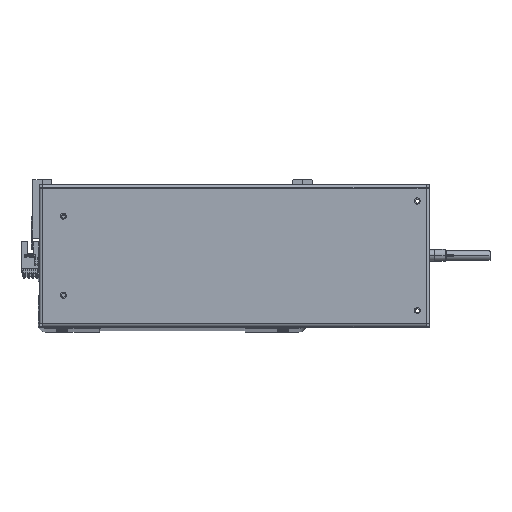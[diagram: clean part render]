
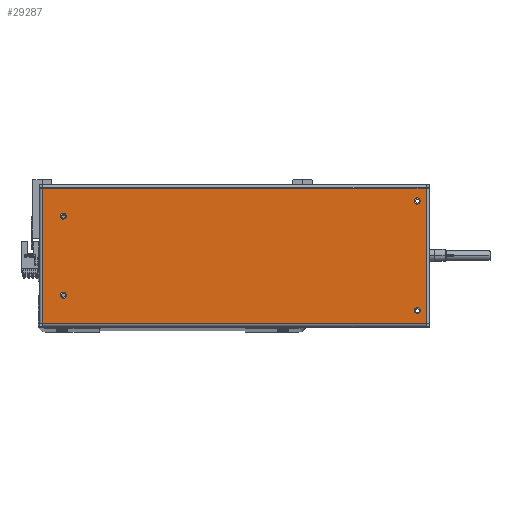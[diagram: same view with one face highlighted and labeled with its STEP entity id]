
A CAD part, top view. The second image highlights one B-rep face of the part: STEP entity #29287.
In plain terms, the highlighted planar face has unit normal (0, 0, 1).
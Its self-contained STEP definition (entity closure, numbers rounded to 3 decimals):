
#29 = VERTEX_POINT ( 'NONE', #30777 ) ;
#833 = CIRCLE ( 'NONE', #13440, 2.5 ) ;
#927 = EDGE_CURVE ( 'NONE', #29, #7868, #24896, .T. ) ;
#1011 = DIRECTION ( 'NONE',  ( 0., 0., 1. ) ) ;
#1405 = EDGE_CURVE ( 'NONE', #23130, #19982, #12248, .T. ) ;
#1716 = VECTOR ( 'NONE', #28894, 1000. ) ;
#1764 = CARTESIAN_POINT ( 'NONE',  ( 153., -45., 0. ) ) ;
#1971 = CARTESIAN_POINT ( 'NONE',  ( 150.5, 45., 0. ) ) ;
#2161 = LINE ( 'NONE', #19128, #1716 ) ;
#2240 = DIRECTION ( 'NONE',  ( 1., 0., 0. ) ) ;
#2986 = CARTESIAN_POINT ( 'NONE',  ( -157.6, 55.6, 0. ) ) ;
#3028 = CIRCLE ( 'NONE', #21426, 2.5 ) ;
#3283 = CARTESIAN_POINT ( 'NONE',  ( -140.5, -32.5, 0. ) ) ;
#3289 = DIRECTION ( 'NONE',  ( 1., 0., 0. ) ) ;
#3943 = CARTESIAN_POINT ( 'NONE',  ( 148., 45., 0. ) ) ;
#4337 = EDGE_LOOP ( 'NONE', ( #41410, #6132 ) ) ;
#4684 = DIRECTION ( 'NONE',  ( 0., 0., -1. ) ) ;
#4745 = ORIENTED_EDGE ( 'NONE', *, *, #23577, .F. ) ;
#5396 = DIRECTION ( 'NONE',  ( 1., 0., 0. ) ) ;
#6132 = ORIENTED_EDGE ( 'NONE', *, *, #34473, .F. ) ;
#6410 = CARTESIAN_POINT ( 'NONE',  ( 157.6, -55.6, 0. ) ) ;
#6520 = LINE ( 'NONE', #35595, #40639 ) ;
#6764 = FACE_BOUND ( 'NONE', #15195, .T. ) ;
#6909 = ORIENTED_EDGE ( 'NONE', *, *, #35395, .T. ) ;
#7868 = VERTEX_POINT ( 'NONE', #2986 ) ;
#7960 = VERTEX_POINT ( 'NONE', #36609 ) ;
#8451 = EDGE_CURVE ( 'NONE', #37387, #40763, #11233, .T. ) ;
#8505 = EDGE_CURVE ( 'NONE', #14424, #27484, #34440, .T. ) ;
#10174 = CIRCLE ( 'NONE', #40278, 2.5 ) ;
#11233 = CIRCLE ( 'NONE', #20416, 2.5 ) ;
#11401 = EDGE_CURVE ( 'NONE', #7868, #33018, #2161, .T. ) ;
#11978 = EDGE_CURVE ( 'NONE', #7960, #25720, #24402, .T. ) ;
#12248 = CIRCLE ( 'NONE', #25411, 2.5 ) ;
#13028 = FACE_OUTER_BOUND ( 'NONE', #17776, .T. ) ;
#13440 = AXIS2_PLACEMENT_3D ( 'NONE', #14851, #37952, #5396 ) ;
#13564 = AXIS2_PLACEMENT_3D ( 'NONE', #17928, #4684, #34011 ) ;
#14174 = ORIENTED_EDGE ( 'NONE', *, *, #11401, .T. ) ;
#14424 = VERTEX_POINT ( 'NONE', #27200 ) ;
#14851 = CARTESIAN_POINT ( 'NONE',  ( 150.5, -45., 0. ) ) ;
#15195 = EDGE_LOOP ( 'NONE', ( #15547, #26000 ) ) ;
#15547 = ORIENTED_EDGE ( 'NONE', *, *, #35580, .F. ) ;
#15656 = EDGE_CURVE ( 'NONE', #27484, #14424, #32590, .T. ) ;
#16148 = VECTOR ( 'NONE', #22358, 1000. ) ;
#17220 = FACE_BOUND ( 'NONE', #32086, .T. ) ;
#17746 = ORIENTED_EDGE ( 'NONE', *, *, #15656, .F. ) ;
#17776 = EDGE_LOOP ( 'NONE', ( #14174, #6909, #20591, #30326 ) ) ;
#17928 = CARTESIAN_POINT ( 'NONE',  ( 157.7, 58.5, 0. ) ) ;
#18115 = CARTESIAN_POINT ( 'NONE',  ( -140.5, -32.5, 0. ) ) ;
#19128 = CARTESIAN_POINT ( 'NONE',  ( -157.6, 55.6, 0. ) ) ;
#19919 = DIRECTION ( 'NONE',  ( 0., 1., 0. ) ) ;
#19954 = CARTESIAN_POINT ( 'NONE',  ( 150.5, -45., 0. ) ) ;
#19982 = VERTEX_POINT ( 'NONE', #31245 ) ;
#20416 = AXIS2_PLACEMENT_3D ( 'NONE', #1971, #28398, #38369 ) ;
#20591 = ORIENTED_EDGE ( 'NONE', *, *, #33642, .T. ) ;
#20690 = AXIS2_PLACEMENT_3D ( 'NONE', #31059, #1011, #37425 ) ;
#21426 = AXIS2_PLACEMENT_3D ( 'NONE', #38947, #25492, #2240 ) ;
#21922 = LINE ( 'NONE', #6410, #32738 ) ;
#22358 = DIRECTION ( 'NONE',  ( -1., 0., 0. ) ) ;
#22460 = VERTEX_POINT ( 'NONE', #31828 ) ;
#22496 = CARTESIAN_POINT ( 'NONE',  ( 157.7, 55.6, 0. ) ) ;
#23130 = VERTEX_POINT ( 'NONE', #1764 ) ;
#23577 = EDGE_CURVE ( 'NONE', #40763, #37387, #3028, .T. ) ;
#23637 = ORIENTED_EDGE ( 'NONE', *, *, #8451, .F. ) ;
#23937 = ORIENTED_EDGE ( 'NONE', *, *, #8505, .F. ) ;
#24402 = CIRCLE ( 'NONE', #20690, 2.5 ) ;
#24498 = PLANE ( 'NONE',  #13564 ) ;
#24690 = DIRECTION ( 'NONE',  ( 0., 0., 1. ) ) ;
#24896 = LINE ( 'NONE', #22496, #16148 ) ;
#25411 = AXIS2_PLACEMENT_3D ( 'NONE', #19954, #42814, #3289 ) ;
#25492 = DIRECTION ( 'NONE',  ( 0., 0., 1. ) ) ;
#25720 = VERTEX_POINT ( 'NONE', #37927 ) ;
#26000 = ORIENTED_EDGE ( 'NONE', *, *, #11978, .F. ) ;
#27200 = CARTESIAN_POINT ( 'NONE',  ( -143., -32.5, 0. ) ) ;
#27484 = VERTEX_POINT ( 'NONE', #28307 ) ;
#28307 = CARTESIAN_POINT ( 'NONE',  ( -138., -32.5, 0. ) ) ;
#28398 = DIRECTION ( 'NONE',  ( 0., 0., 1. ) ) ;
#28894 = DIRECTION ( 'NONE',  ( 0., -1., 0. ) ) ;
#29287 = ADVANCED_FACE ( 'NONE', ( #41389, #6764, #40384, #17220, #13028 ), #24498, .F. ) ;
#30326 = ORIENTED_EDGE ( 'NONE', *, *, #927, .T. ) ;
#30480 = AXIS2_PLACEMENT_3D ( 'NONE', #18115, #24690, #34787 ) ;
#30777 = CARTESIAN_POINT ( 'NONE',  ( 157.6, 55.6, 0. ) ) ;
#31059 = CARTESIAN_POINT ( 'NONE',  ( -140.5, 32.5, 0. ) ) ;
#31245 = CARTESIAN_POINT ( 'NONE',  ( 148., -45., 0. ) ) ;
#31828 = CARTESIAN_POINT ( 'NONE',  ( 157.6, -55.6, 0. ) ) ;
#32031 = CARTESIAN_POINT ( 'NONE',  ( 153., 45., 0. ) ) ;
#32086 = EDGE_LOOP ( 'NONE', ( #4745, #23637 ) ) ;
#32279 = AXIS2_PLACEMENT_3D ( 'NONE', #3283, #41923, #33008 ) ;
#32590 = CIRCLE ( 'NONE', #30480, 2.5 ) ;
#32738 = VECTOR ( 'NONE', #19919, 1000. ) ;
#33008 = DIRECTION ( 'NONE',  ( 1., 0., 0. ) ) ;
#33018 = VERTEX_POINT ( 'NONE', #40835 ) ;
#33642 = EDGE_CURVE ( 'NONE', #22460, #29, #21922, .T. ) ;
#34011 = DIRECTION ( 'NONE',  ( -1., 0., 0. ) ) ;
#34440 = CIRCLE ( 'NONE', #32279, 2.5 ) ;
#34473 = EDGE_CURVE ( 'NONE', #19982, #23130, #833, .T. ) ;
#34613 = DIRECTION ( 'NONE',  ( 1., 0., 0. ) ) ;
#34787 = DIRECTION ( 'NONE',  ( 1., 0., 0. ) ) ;
#35395 = EDGE_CURVE ( 'NONE', #33018, #22460, #6520, .T. ) ;
#35450 = DIRECTION ( 'NONE',  ( 1., 0., 0. ) ) ;
#35580 = EDGE_CURVE ( 'NONE', #25720, #7960, #10174, .T. ) ;
#35595 = CARTESIAN_POINT ( 'NONE',  ( -157.7, -55.6, 0. ) ) ;
#36609 = CARTESIAN_POINT ( 'NONE',  ( -143., 32.5, 0. ) ) ;
#37387 = VERTEX_POINT ( 'NONE', #3943 ) ;
#37425 = DIRECTION ( 'NONE',  ( 1., 0., 0. ) ) ;
#37829 = CARTESIAN_POINT ( 'NONE',  ( -140.5, 32.5, 0. ) ) ;
#37927 = CARTESIAN_POINT ( 'NONE',  ( -138., 32.5, 0. ) ) ;
#37952 = DIRECTION ( 'NONE',  ( 0., 0., 1. ) ) ;
#38369 = DIRECTION ( 'NONE',  ( 1., 0., 0. ) ) ;
#38947 = CARTESIAN_POINT ( 'NONE',  ( 150.5, 45., 0. ) ) ;
#39572 = EDGE_LOOP ( 'NONE', ( #17746, #23937 ) ) ;
#40278 = AXIS2_PLACEMENT_3D ( 'NONE', #37829, #40680, #34613 ) ;
#40384 = FACE_BOUND ( 'NONE', #4337, .T. ) ;
#40639 = VECTOR ( 'NONE', #35450, 1000. ) ;
#40680 = DIRECTION ( 'NONE',  ( 0., 0., 1. ) ) ;
#40763 = VERTEX_POINT ( 'NONE', #32031 ) ;
#40835 = CARTESIAN_POINT ( 'NONE',  ( -157.6, -55.6, 0. ) ) ;
#41389 = FACE_BOUND ( 'NONE', #39572, .T. ) ;
#41410 = ORIENTED_EDGE ( 'NONE', *, *, #1405, .F. ) ;
#41923 = DIRECTION ( 'NONE',  ( 0., 0., 1. ) ) ;
#42814 = DIRECTION ( 'NONE',  ( 0., 0., 1. ) ) ;
